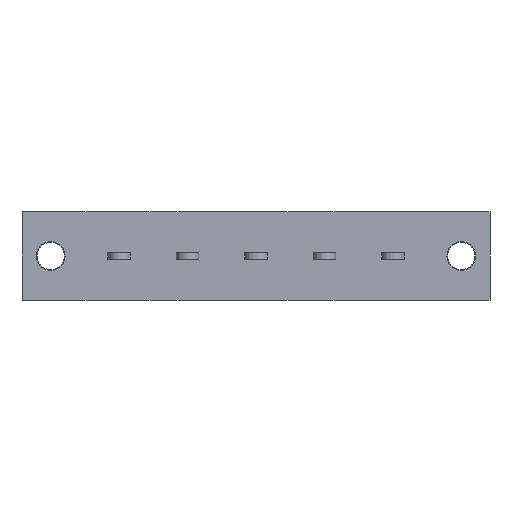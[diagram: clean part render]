
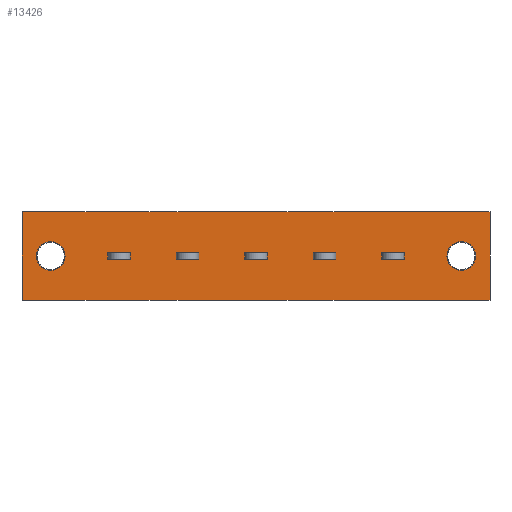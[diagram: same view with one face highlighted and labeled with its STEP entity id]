
A CAD part, front view. The second image highlights one B-rep face of the part: STEP entity #13426.
In plain terms, the highlighted planar face has unit normal (0, -1, 0).
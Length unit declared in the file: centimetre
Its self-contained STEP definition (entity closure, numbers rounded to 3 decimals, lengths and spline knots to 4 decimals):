
#971=VECTOR('',#15092,1.);
#1101=VECTOR('',#15390,1.);
#1105=VECTOR('',#15401,1.);
#1108=VECTOR('',#15417,1.);
#1109=VECTOR('',#15419,1.);
#1125=VECTOR('',#15444,1.);
#1126=VECTOR('',#15445,1.);
#1127=VECTOR('',#15446,1.);
#1128=VECTOR('',#15447,1.);
#1129=VECTOR('',#15448,1.);
#1130=VECTOR('',#15449,1.);
#1131=VECTOR('',#15450,1.);
#1132=VECTOR('',#15451,1.);
#1133=VECTOR('',#15452,1.);
#1134=VECTOR('',#15453,1.);
#1135=VECTOR('',#15454,1.);
#1136=VECTOR('',#15455,1.);
#1137=VECTOR('',#15456,1.);
#1138=VECTOR('',#15457,1.);
#1139=VECTOR('',#15458,1.);
#1140=VECTOR('',#15459,1.);
#1141=VECTOR('',#15460,1.);
#1142=VECTOR('',#15461,1.);
#1143=VECTOR('',#15462,1.);
#2525=LINE('',#18851,#971);
#2655=LINE('',#19259,#1101);
#2659=LINE('',#19271,#1105);
#2662=LINE('',#19283,#1108);
#2663=LINE('',#19286,#1109);
#2679=LINE('',#19325,#1125);
#2680=LINE('',#19328,#1126);
#2681=LINE('',#19330,#1127);
#2682=LINE('',#19332,#1128);
#2683=LINE('',#19333,#1129);
#2684=LINE('',#19336,#1130);
#2685=LINE('',#19338,#1131);
#2686=LINE('',#19340,#1132);
#2687=LINE('',#19341,#1133);
#2688=LINE('',#19344,#1134);
#2689=LINE('',#19346,#1135);
#2690=LINE('',#19348,#1136);
#2691=LINE('',#19349,#1137);
#2692=LINE('',#19352,#1138);
#2693=LINE('',#19354,#1139);
#2694=LINE('',#19356,#1140);
#2695=LINE('',#19357,#1141);
#2696=LINE('',#19359,#1142);
#2697=LINE('',#19361,#1143);
#4062=VERTEX_POINT('',#18849);
#4064=VERTEX_POINT('',#18852);
#4070=VERTEX_POINT('',#18866);
#4192=VERTEX_POINT('',#19260);
#4193=VERTEX_POINT('',#19261);
#4196=VERTEX_POINT('',#19272);
#4197=VERTEX_POINT('',#19284);
#4214=VERTEX_POINT('',#19324);
#4215=VERTEX_POINT('',#19326);
#4216=VERTEX_POINT('',#19327);
#4217=VERTEX_POINT('',#19329);
#4218=VERTEX_POINT('',#19331);
#4219=VERTEX_POINT('',#19334);
#4220=VERTEX_POINT('',#19335);
#4221=VERTEX_POINT('',#19337);
#4222=VERTEX_POINT('',#19339);
#4223=VERTEX_POINT('',#19342);
#4224=VERTEX_POINT('',#19343);
#4225=VERTEX_POINT('',#19345);
#4226=VERTEX_POINT('',#19347);
#4227=VERTEX_POINT('',#19350);
#4228=VERTEX_POINT('',#19351);
#4229=VERTEX_POINT('',#19353);
#4230=VERTEX_POINT('',#19355);
#4231=VERTEX_POINT('',#19358);
#4232=VERTEX_POINT('',#19360);
#5086=CIRCLE('',#22723,0.21);
#5127=CIRCLE('',#22850,0.21);
#5809=EDGE_CURVE('',#4064,#4062,#2525,.T.);
#5816=EDGE_CURVE('',#4070,#4070,#5086,.T.);
#5990=EDGE_CURVE('',#4192,#4193,#2655,.T.);
#5996=EDGE_CURVE('',#4196,#4192,#2659,.T.);
#6003=EDGE_CURVE('',#4197,#4196,#2662,.T.);
#6005=EDGE_CURVE('',#4193,#4197,#2663,.T.);
#6023=EDGE_CURVE('',#4214,#4214,#5127,.T.);
#6024=EDGE_CURVE('',#4215,#4216,#2679,.T.);
#6025=EDGE_CURVE('',#4216,#4217,#2680,.T.);
#6026=EDGE_CURVE('',#4217,#4218,#2681,.T.);
#6027=EDGE_CURVE('',#4218,#4215,#2682,.T.);
#6028=EDGE_CURVE('',#4219,#4220,#2683,.T.);
#6029=EDGE_CURVE('',#4220,#4221,#2684,.T.);
#6030=EDGE_CURVE('',#4221,#4222,#2685,.T.);
#6031=EDGE_CURVE('',#4222,#4219,#2686,.T.);
#6032=EDGE_CURVE('',#4223,#4224,#2687,.T.);
#6033=EDGE_CURVE('',#4224,#4225,#2688,.T.);
#6034=EDGE_CURVE('',#4225,#4226,#2689,.T.);
#6035=EDGE_CURVE('',#4226,#4223,#2690,.T.);
#6036=EDGE_CURVE('',#4227,#4228,#2691,.T.);
#6037=EDGE_CURVE('',#4228,#4229,#2692,.T.);
#6038=EDGE_CURVE('',#4229,#4230,#2693,.T.);
#6039=EDGE_CURVE('',#4230,#4227,#2694,.T.);
#6040=EDGE_CURVE('',#4231,#4064,#2695,.T.);
#6041=EDGE_CURVE('',#4232,#4062,#2696,.T.);
#6042=EDGE_CURVE('',#4232,#4231,#2697,.T.);
#8768=ORIENTED_EDGE('',*,*,#5816,.T.);
#8769=ORIENTED_EDGE('',*,*,#6023,.T.);
#8770=ORIENTED_EDGE('',*,*,#5996,.F.);
#8771=ORIENTED_EDGE('',*,*,#6003,.F.);
#8772=ORIENTED_EDGE('',*,*,#6005,.F.);
#8773=ORIENTED_EDGE('',*,*,#5990,.F.);
#8774=ORIENTED_EDGE('',*,*,#6024,.T.);
#8775=ORIENTED_EDGE('',*,*,#6025,.T.);
#8776=ORIENTED_EDGE('',*,*,#6026,.T.);
#8777=ORIENTED_EDGE('',*,*,#6027,.T.);
#8778=ORIENTED_EDGE('',*,*,#6028,.T.);
#8779=ORIENTED_EDGE('',*,*,#6029,.T.);
#8780=ORIENTED_EDGE('',*,*,#6030,.T.);
#8781=ORIENTED_EDGE('',*,*,#6031,.T.);
#8782=ORIENTED_EDGE('',*,*,#6032,.T.);
#8783=ORIENTED_EDGE('',*,*,#6033,.T.);
#8784=ORIENTED_EDGE('',*,*,#6034,.T.);
#8785=ORIENTED_EDGE('',*,*,#6035,.T.);
#8786=ORIENTED_EDGE('',*,*,#6036,.T.);
#8787=ORIENTED_EDGE('',*,*,#6037,.T.);
#8788=ORIENTED_EDGE('',*,*,#6038,.T.);
#8789=ORIENTED_EDGE('',*,*,#6039,.T.);
#8790=ORIENTED_EDGE('',*,*,#6040,.T.);
#8791=ORIENTED_EDGE('',*,*,#5809,.T.);
#8792=ORIENTED_EDGE('',*,*,#6041,.F.);
#8793=ORIENTED_EDGE('',*,*,#6042,.T.);
#11741=EDGE_LOOP('',(#8768));
#11742=EDGE_LOOP('',(#8769));
#11743=EDGE_LOOP('',(#8770,#8771,#8772,#8773));
#11744=EDGE_LOOP('',(#8774,#8775,#8776,#8777));
#11745=EDGE_LOOP('',(#8778,#8779,#8780,#8781));
#11746=EDGE_LOOP('',(#8782,#8783,#8784,#8785));
#11747=EDGE_LOOP('',(#8786,#8787,#8788,#8789));
#11748=EDGE_LOOP('',(#8790,#8791,#8792,#8793));
#12601=FACE_BOUND('',#11741,.T.);
#12602=FACE_BOUND('',#11742,.T.);
#12603=FACE_BOUND('',#11743,.T.);
#12604=FACE_BOUND('',#11744,.T.);
#12605=FACE_BOUND('',#11745,.T.);
#12606=FACE_BOUND('',#11746,.T.);
#12607=FACE_BOUND('',#11747,.T.);
#12608=FACE_BOUND('',#11748,.T.);
#13426=ADVANCED_FACE('',(#12601,#12602,#12603,#12604,#12605,#12606,#12607,
#12608),#14124,.T.);
#14124=PLANE('',#22849);
#15092=DIRECTION('',(0.,0.,1.));
#15101=DIRECTION('',(0.,1.,0.));
#15102=DIRECTION('',(0.21,0.,0.));
#15390=DIRECTION('',(0.,0.,1.));
#15401=DIRECTION('',(1.,0.,0.));
#15417=DIRECTION('',(0.,0.,-1.));
#15419=DIRECTION('',(-1.,0.,0.));
#15441=DIRECTION('',(0.,-1.,0.));
#15442=DIRECTION('',(0.,1.,0.));
#15443=DIRECTION('',(0.21,0.,0.));
#15444=DIRECTION('',(-1.,0.,0.));
#15445=DIRECTION('',(0.,0.,1.));
#15446=DIRECTION('',(1.,0.,0.));
#15447=DIRECTION('',(0.,0.,-1.));
#15448=DIRECTION('',(-1.,0.,0.));
#15449=DIRECTION('',(0.,0.,1.));
#15450=DIRECTION('',(1.,0.,0.));
#15451=DIRECTION('',(0.,0.,-1.));
#15452=DIRECTION('',(-1.,0.,0.));
#15453=DIRECTION('',(0.,0.,1.));
#15454=DIRECTION('',(1.,0.,0.));
#15455=DIRECTION('',(0.,0.,-1.));
#15456=DIRECTION('',(-1.,0.,0.));
#15457=DIRECTION('',(0.,0.,1.));
#15458=DIRECTION('',(1.,0.,0.));
#15459=DIRECTION('',(0.,0.,-1.));
#15460=DIRECTION('',(1.,0.,0.));
#15461=DIRECTION('',(1.,0.,0.));
#15462=DIRECTION('',(0.,0.,-1.));
#18849=CARTESIAN_POINT('',(5.,0.,0.65));
#18851=CARTESIAN_POINT('',(5.,0.,0.65));
#18852=CARTESIAN_POINT('',(5.,0.,-0.65));
#18865=CARTESIAN_POINT('',(4.58,0.,0.));
#18866=CARTESIAN_POINT('',(4.37,0.,0.));
#19259=CARTESIAN_POINT('',(-0.255,0.,0.));
#19260=CARTESIAN_POINT('',(-0.255,0.,-0.05));
#19261=CARTESIAN_POINT('',(-0.255,0.,0.05));
#19271=CARTESIAN_POINT('',(-0.63,0.,-0.05));
#19272=CARTESIAN_POINT('',(-0.585,0.,-0.05));
#19283=CARTESIAN_POINT('',(-0.585,0.,0.));
#19284=CARTESIAN_POINT('',(-0.585,0.,0.05));
#19286=CARTESIAN_POINT('',(-0.63,0.,0.05));
#19322=CARTESIAN_POINT('',(0.,0.,0.));
#19323=CARTESIAN_POINT('',(-1.42,0.,0.));
#19324=CARTESIAN_POINT('',(-1.63,0.,0.));
#19325=CARTESIAN_POINT('',(1.79,0.,-0.05));
#19326=CARTESIAN_POINT('',(3.745,0.,-0.05));
#19327=CARTESIAN_POINT('',(3.415,0.,-0.05));
#19328=CARTESIAN_POINT('',(3.415,0.,0.));
#19329=CARTESIAN_POINT('',(3.415,0.,0.05));
#19330=CARTESIAN_POINT('',(1.79,0.,0.05));
#19331=CARTESIAN_POINT('',(3.745,0.,0.05));
#19332=CARTESIAN_POINT('',(3.745,0.,0.));
#19333=CARTESIAN_POINT('',(1.29,0.,-0.05));
#19334=CARTESIAN_POINT('',(2.745,0.,-0.05));
#19335=CARTESIAN_POINT('',(2.415,0.,-0.05));
#19336=CARTESIAN_POINT('',(2.415,0.,0.));
#19337=CARTESIAN_POINT('',(2.415,0.,0.05));
#19338=CARTESIAN_POINT('',(1.29,0.,0.05));
#19339=CARTESIAN_POINT('',(2.745,0.,0.05));
#19340=CARTESIAN_POINT('',(2.745,0.,0.));
#19341=CARTESIAN_POINT('',(0.79,0.,-0.05));
#19342=CARTESIAN_POINT('',(1.745,0.,-0.05));
#19343=CARTESIAN_POINT('',(1.415,0.,-0.05));
#19344=CARTESIAN_POINT('',(1.415,0.,0.));
#19345=CARTESIAN_POINT('',(1.415,0.,0.05));
#19346=CARTESIAN_POINT('',(0.79,0.,0.05));
#19347=CARTESIAN_POINT('',(1.745,0.,0.05));
#19348=CARTESIAN_POINT('',(1.745,0.,0.));
#19349=CARTESIAN_POINT('',(0.29,0.,-0.05));
#19350=CARTESIAN_POINT('',(0.745,0.,-0.05));
#19351=CARTESIAN_POINT('',(0.415,0.,-0.05));
#19352=CARTESIAN_POINT('',(0.415,0.,0.));
#19353=CARTESIAN_POINT('',(0.415,0.,0.05));
#19354=CARTESIAN_POINT('',(0.29,0.,0.05));
#19355=CARTESIAN_POINT('',(0.745,0.,0.05));
#19356=CARTESIAN_POINT('',(0.745,0.,0.));
#19357=CARTESIAN_POINT('',(-1.84,0.,-0.65));
#19358=CARTESIAN_POINT('',(-1.84,0.,-0.65));
#19359=CARTESIAN_POINT('',(0.,0.,0.65));
#19360=CARTESIAN_POINT('',(-1.84,0.,0.65));
#19361=CARTESIAN_POINT('',(-1.84,0.,0.65));
#22723=AXIS2_PLACEMENT_3D('',#18865,#15101,#15102);
#22849=AXIS2_PLACEMENT_3D('',#19322,#15441,$);
#22850=AXIS2_PLACEMENT_3D('',#19323,#15442,#15443);
